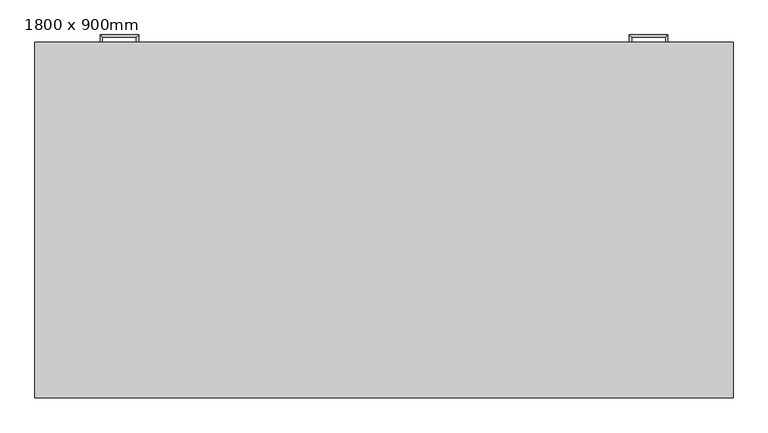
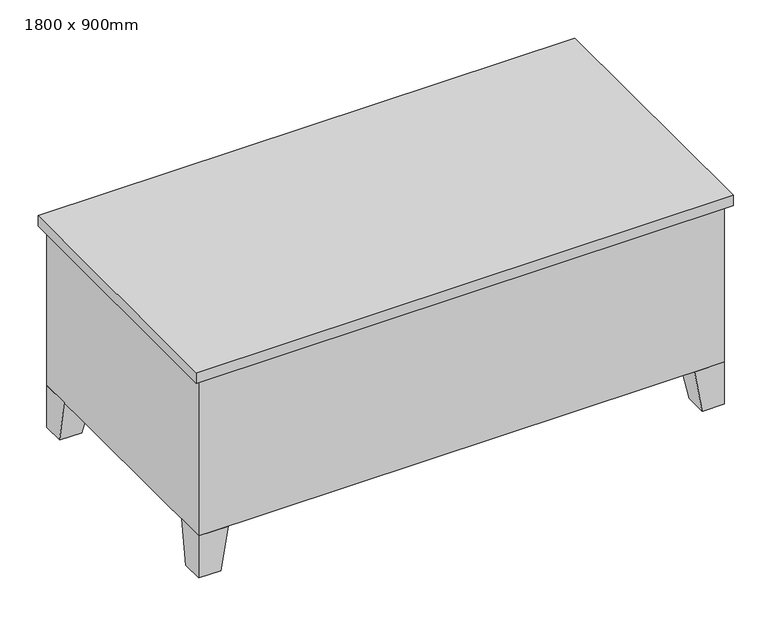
"""IFC4 building model written with IfcOpenShell, lengths in millimetres: furniture geometry, Prac.stul : 1800 x 900mm."""

from ifc_helpers import new_model, si_unit, frame, origin, place, context, project, spatial, polyline, outline, extrude, faceted_brep, source, transform, mapped, element, save


def furniture_1800_x_900mm_2fcb012d(model_context):
    return source(origin(), model_context, "Body", "SolidModel", [
        extrude(outline(polyline([(1780.95, 900.0), (1412.65, 900.0), (1412.65, 912.7), (1780.95, 912.7), (1780.95, 900.0)])), frame((0.0, 0.0, 603.25), z_axis=(0.0, 0.0, 1.0), x_axis=(1.0, 0.0, 0.0)), (0.0, 0.0, 1.0), 101.6),
        extrude(outline(polyline([(1780.95, 900.0), (1412.65, 900.0), (1412.65, 912.7), (1780.95, 912.7), (1780.95, 900.0)])), frame((0.0, 0.0, 171.05), z_axis=(0.0, 0.0, 1.0), x_axis=(1.0, 0.0, 0.0)), (0.0, 0.0, 1.0), 413.15),
        extrude(outline(polyline([(387.35, 900.0), (19.05, 900.0), (19.05, 912.7), (387.35, 912.7), (387.35, 900.0)])), frame((0.0, 0.0, 602.85), z_axis=(0.0, 0.0, 1.0), x_axis=(1.0, 0.0, 0.0)), (0.0, 0.0, 1.0), 102.0),
        extrude(outline(polyline([(387.35, 900.0), (19.05, 900.0), (19.05, 912.7), (387.35, 912.7), (387.35, 900.0)])), frame((0.0, 0.0, 171.05), z_axis=(0.0, 0.0, 1.0), x_axis=(1.0, 0.0, 0.0)), (0.0, 0.0, 1.0), 171.45),
        extrude(outline(polyline([(387.35, 900.0), (19.05, 900.0), (19.05, 912.7), (387.35, 912.7), (387.35, 900.0)])), frame((0.0, 0.0, 482.2), z_axis=(0.0, 0.0, 1.0), x_axis=(1.0, 0.0, 0.0)), (0.0, 0.0, 1.0), 101.6),
        extrude(outline(polyline([(387.35, 900.0), (19.05, 900.0), (19.05, 912.7), (387.35, 912.7), (387.35, 900.0)])), frame((0.0, 0.0, 361.55), z_axis=(0.0, 0.0, 1.0), x_axis=(1.0, 0.0, 0.0)), (0.0, 0.0, 1.0), 101.6),
        faceted_brep([(1698.4, 900.0, 152.0), (1698.4, 798.4, 152.0), (1800.0, 798.4, 152.0), (1800.0, 900.0, 152.0), (1723.8, 900.0, 0.0), (1800.0, 900.0, 0.0), (1800.0, 823.8, 0.0), (1723.8, 823.8, 0.0)], [[[0, 1, 2, 3]], [[4, 5, 6, 7]], [[4, 7, 1, 0]], [[7, 6, 2, 1]], [[6, 5, 3, 2]], [[5, 4, 0, 3]]]),
        faceted_brep([(1698.4, 0.0, 152.0), (1800.0, 0.0, 152.0), (1800.0, 101.6, 152.0), (1698.4, 101.6, 152.0), (1723.8, 0.0, 0.0), (1723.8, 76.2, 0.0), (1800.0, 76.2, 0.0), (1800.0, 0.0, 0.0)], [[[0, 1, 2, 3]], [[4, 5, 6, 7]], [[4, 7, 1, 0]], [[7, 6, 2, 1]], [[6, 5, 3, 2]], [[5, 4, 0, 3]]]),
        faceted_brep([(101.6, 0.0, 152.0), (101.6, 101.6, 152.0), (0.0, 101.6, 152.0), (0.0, 0.0, 152.0), (76.2, 0.0, 0.0), (0.0, 0.0, 0.0), (0.0, 76.2, 0.0), (76.2, 76.2, 0.0)], [[[0, 1, 2, 3]], [[4, 5, 6, 7]], [[4, 7, 1, 0]], [[7, 6, 2, 1]], [[6, 5, 3, 2]], [[5, 4, 0, 3]]]),
        faceted_brep([(101.6, 900.0, 152.0), (0.0, 900.0, 152.0), (0.0, 798.4, 152.0), (101.6, 798.4, 152.0), (76.2, 900.0, 0.0), (76.2, 823.8, 0.0), (0.0, 823.8, 0.0), (0.0, 900.0, 0.0)], [[[0, 1, 2, 3]], [[4, 5, 6, 7]], [[4, 7, 1, 0]], [[7, 6, 2, 1]], [[6, 5, 3, 2]], [[5, 4, 0, 3]]]),
        extrude(outline(polyline([(1819.05, 919.05), (1819.05, -19.05), (-19.05, -19.05), (-19.05, 919.05), (1819.05, 919.05)])), frame((0.0, 0.0, 723.9), z_axis=(0.0, 0.0, 1.0), x_axis=(1.0, 0.0, 0.0)), (0.0, 0.0, 1.0), 38.1),
        extrude(outline(polyline([(406.4, 900.0), (406.4, 50.8), (1393.6, 50.8), (1393.6, 900.0), (1800.0, 900.0), (1800.0, 0.0), (0.0, 0.0), (0.0, 900.0), (406.4, 900.0)])), frame((0.0, 0.0, 152.0), z_axis=(0.0, 0.0, 1.0), x_axis=(1.0, 0.0, 0.0)), (0.0, 0.0, 1.0), 571.9),
        faceted_brep([(1641.25, 912.7, 546.1), (1641.25, 912.7, 533.4), (1647.6, 912.7, 533.4), (1647.6, 912.7, 546.1), (1641.25, 931.75, 546.1), (1641.25, 931.75, 533.4), (1647.6, 938.1, 533.4), (1647.6, 938.1, 546.1), (1552.35, 931.75, 546.1), (1552.35, 931.75, 533.4), (1546.0, 938.1, 533.4), (1546.0, 938.1, 546.1), (1552.35, 912.7, 546.1), (1546.0, 912.7, 546.1), (1546.0, 912.7, 533.4), (1552.35, 912.7, 533.4)], [[[0, 1, 2, 3]], [[1, 0, 4, 5]], [[2, 1, 5, 6]], [[3, 2, 6, 7]], [[0, 3, 7, 4]], [[5, 4, 8, 9]], [[6, 5, 9, 10]], [[7, 6, 10, 11]], [[4, 7, 11, 8]], [[12, 13, 14, 15]], [[9, 8, 12, 15]], [[10, 9, 15, 14]], [[11, 10, 14, 13]], [[8, 11, 13, 12]]]),
        faceted_brep([(1641.25, 912.7, 666.75), (1641.25, 912.7, 654.05), (1647.6, 912.7, 654.05), (1647.6, 912.7, 666.75), (1641.25, 931.75, 666.75), (1641.25, 931.75, 654.05), (1647.6, 938.1, 654.05), (1647.6, 938.1, 666.75), (1552.35, 931.75, 666.75), (1552.35, 931.75, 654.05), (1546.0, 938.1, 654.05), (1546.0, 938.1, 666.75), (1552.35, 912.7, 666.75), (1546.0, 912.7, 666.75), (1546.0, 912.7, 654.05), (1552.35, 912.7, 654.05)], [[[0, 1, 2, 3]], [[1, 0, 4, 5]], [[2, 1, 5, 6]], [[3, 2, 6, 7]], [[0, 3, 7, 4]], [[5, 4, 8, 9]], [[6, 5, 9, 10]], [[7, 6, 10, 11]], [[4, 7, 11, 8]], [[12, 13, 14, 15]], [[9, 8, 12, 15]], [[10, 9, 15, 14]], [[11, 10, 14, 13]], [[8, 11, 13, 12]]]),
        faceted_brep([(158.75, 912.7, 304.8), (152.4, 912.7, 304.8), (152.4, 912.7, 292.1), (158.75, 912.7, 292.1), (158.75, 931.75, 304.8), (152.4, 938.1, 304.8), (152.4, 938.1, 292.1), (158.75, 931.75, 292.1), (247.65, 931.75, 304.8), (254.0, 938.1, 304.8), (254.0, 938.1, 292.1), (247.65, 931.75, 292.1), (247.65, 912.7, 304.8), (247.65, 912.7, 292.1), (254.0, 912.7, 292.1), (254.0, 912.7, 304.8)], [[[0, 1, 2, 3]], [[1, 0, 4, 5]], [[2, 1, 5, 6]], [[3, 2, 6, 7]], [[0, 3, 7, 4]], [[5, 4, 8, 9]], [[6, 5, 9, 10]], [[7, 6, 10, 11]], [[4, 7, 11, 8]], [[12, 13, 14, 15]], [[9, 8, 12, 15]], [[10, 9, 15, 14]], [[11, 10, 14, 13]], [[8, 11, 13, 12]]]),
        faceted_brep([(158.75, 912.7, 425.45), (152.4, 912.7, 425.45), (152.4, 912.7, 412.75), (158.75, 912.7, 412.75), (158.75, 931.75, 425.45), (152.4, 938.1, 425.45), (152.4, 938.1, 412.75), (158.75, 931.75, 412.75), (247.65, 931.75, 425.45), (254.0, 938.1, 425.45), (254.0, 938.1, 412.75), (247.65, 931.75, 412.75), (247.65, 912.7, 425.45), (247.65, 912.7, 412.75), (254.0, 912.7, 412.75), (254.0, 912.7, 425.45)], [[[0, 1, 2, 3]], [[1, 0, 4, 5]], [[2, 1, 5, 6]], [[3, 2, 6, 7]], [[0, 3, 7, 4]], [[5, 4, 8, 9]], [[6, 5, 9, 10]], [[7, 6, 10, 11]], [[4, 7, 11, 8]], [[12, 13, 14, 15]], [[9, 8, 12, 15]], [[10, 9, 15, 14]], [[11, 10, 14, 13]], [[8, 11, 13, 12]]]),
        faceted_brep([(158.75, 912.7, 546.1), (152.4, 912.7, 546.1), (152.4, 912.7, 533.4), (158.75, 912.7, 533.4), (158.75, 931.75, 546.1), (152.4, 938.1, 546.1), (152.4, 938.1, 533.4), (158.75, 931.75, 533.4), (247.65, 931.75, 546.1), (254.0, 938.1, 546.1), (254.0, 938.1, 533.4), (247.65, 931.75, 533.4), (247.65, 912.7, 546.1), (247.65, 912.7, 533.4), (254.0, 912.7, 533.4), (254.0, 912.7, 546.1)], [[[0, 1, 2, 3]], [[1, 0, 4, 5]], [[2, 1, 5, 6]], [[3, 2, 6, 7]], [[0, 3, 7, 4]], [[5, 4, 8, 9]], [[6, 5, 9, 10]], [[7, 6, 10, 11]], [[4, 7, 11, 8]], [[12, 13, 14, 15]], [[9, 8, 12, 15]], [[10, 9, 15, 14]], [[11, 10, 14, 13]], [[8, 11, 13, 12]]]),
        faceted_brep([(158.75, 912.7, 666.75), (152.4, 912.7, 666.75), (152.4, 912.7, 654.05), (158.75, 912.7, 654.05), (158.75, 931.75, 666.75), (152.4, 938.1, 666.75), (152.4, 938.1, 654.05), (158.75, 931.75, 654.05), (247.65, 931.75, 666.75), (254.0, 938.1, 666.75), (254.0, 938.1, 654.05), (247.65, 931.75, 654.05), (247.65, 912.7, 666.75), (247.65, 912.7, 654.05), (254.0, 912.7, 654.05), (254.0, 912.7, 666.75)], [[[0, 1, 2, 3]], [[1, 0, 4, 5]], [[2, 1, 5, 6]], [[3, 2, 6, 7]], [[0, 3, 7, 4]], [[5, 4, 8, 9]], [[6, 5, 9, 10]], [[7, 6, 10, 11]], [[4, 7, 11, 8]], [[12, 13, 14, 15]], [[9, 8, 12, 15]], [[10, 9, 15, 14]], [[11, 10, 14, 13]], [[8, 11, 13, 12]]]),
    ])


if __name__ == "__main__":
    model = new_model("IFC4")
    model_context = context("Model", 3, world=origin())
    ifc_project = project(units=[si_unit("LENGTHUNIT", "METRE", prefix="MILLI")], contexts=[model_context])
    site = spatial("IfcSite", under=ifc_project)
    building = spatial("IfcBuilding", under=site)
    placement = place(None, origin())
    furniture_1800_x_900mm_shape = furniture_1800_x_900mm_2fcb012d(model_context)
    element("IfcFurniture", 1, ObjectType="Prac.stul : 1800 x 900mm", at=placement, inside=building, context=model_context, shape_type="MappedRepresentation", body=[
        mapped(furniture_1800_x_900mm_shape, transform((0.0, 0.0, 0.0), x_axis=(1.0, 0.0, 0.0), y_axis=(0.0, 1.0, 0.0), z_axis=(0.0, 0.0, 1.0))),
    ])
    save(model, "model.ifc")
